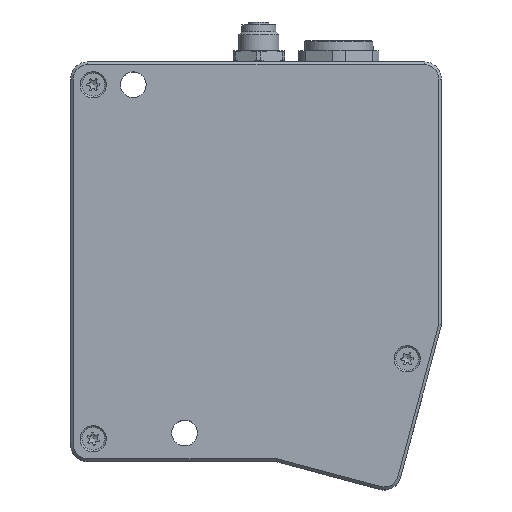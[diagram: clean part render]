
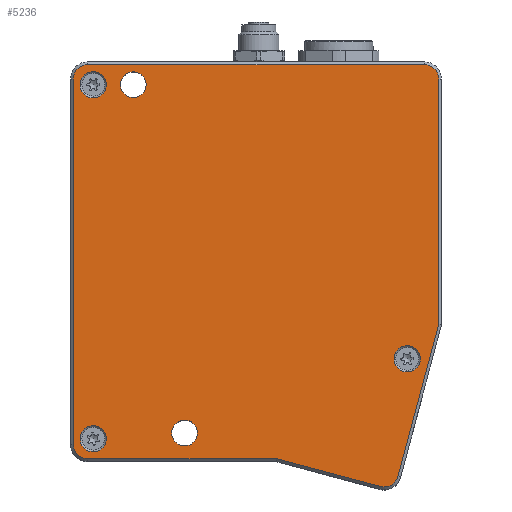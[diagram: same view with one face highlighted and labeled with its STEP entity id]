
A CAD part, top view. The second image highlights one B-rep face of the part: STEP entity #5236.
In plain terms, the highlighted planar face has unit normal (0, 0, 1).
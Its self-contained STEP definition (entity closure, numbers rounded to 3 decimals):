
#162=FACE_BOUND('',#853,.T.);
#163=FACE_BOUND('',#854,.T.);
#164=FACE_BOUND('',#855,.T.);
#165=FACE_BOUND('',#856,.T.);
#166=FACE_BOUND('',#857,.T.);
#244=PLANE('',#5633);
#531=FACE_OUTER_BOUND('',#852,.T.);
#852=EDGE_LOOP('',(#3741,#3742,#3743,#3744,#3745,#3746,#3747,#3748,#3749,
#3750));
#853=EDGE_LOOP('',(#3751,#3752));
#854=EDGE_LOOP('',(#3753,#3754));
#855=EDGE_LOOP('',(#3755,#3756));
#856=EDGE_LOOP('',(#3757,#3758));
#857=EDGE_LOOP('',(#3759,#3760));
#1194=LINE('',#8062,#1522);
#1198=LINE('',#8071,#1526);
#1203=LINE('',#8088,#1531);
#1207=LINE('',#8095,#1535);
#1211=LINE('',#8112,#1539);
#1213=LINE('',#8115,#1541);
#1522=VECTOR('',#6388,10.);
#1526=VECTOR('',#6394,10.);
#1531=VECTOR('',#6413,10.);
#1535=VECTOR('',#6419,10.);
#1539=VECTOR('',#6437,10.);
#1541=VECTOR('',#6441,10.);
#1860=CIRCLE('',#5611,2.5);
#1863=CIRCLE('',#5615,2.5);
#1865=CIRCLE('',#5620,2.5);
#1866=CIRCLE('',#5622,2.5);
#1870=CIRCLE('',#5634,2.25);
#1871=CIRCLE('',#5635,2.25);
#1872=CIRCLE('',#5636,2.25);
#1873=CIRCLE('',#5637,2.25);
#1874=CIRCLE('',#5638,2.3);
#1875=CIRCLE('',#5639,2.3);
#1876=CIRCLE('',#5640,2.3);
#1877=CIRCLE('',#5641,2.3);
#1878=CIRCLE('',#5642,2.3);
#1879=CIRCLE('',#5643,2.3);
#2216=VERTEX_POINT('',#8059);
#2217=VERTEX_POINT('',#8061);
#2220=VERTEX_POINT('',#8068);
#2221=VERTEX_POINT('',#8070);
#2224=VERTEX_POINT('',#8077);
#2225=VERTEX_POINT('',#8082);
#2227=VERTEX_POINT('',#8091);
#2229=VERTEX_POINT('',#8097);
#2232=VERTEX_POINT('',#8104);
#2234=VERTEX_POINT('',#8111);
#2241=VERTEX_POINT('',#8140);
#2242=VERTEX_POINT('',#8141);
#2243=VERTEX_POINT('',#8144);
#2244=VERTEX_POINT('',#8145);
#2245=VERTEX_POINT('',#8148);
#2246=VERTEX_POINT('',#8149);
#2247=VERTEX_POINT('',#8152);
#2248=VERTEX_POINT('',#8153);
#2249=VERTEX_POINT('',#8156);
#2250=VERTEX_POINT('',#8157);
#2792=EDGE_CURVE('',#2216,#2217,#1194,.T.);
#2796=EDGE_CURVE('',#2220,#2221,#1198,.T.);
#2800=EDGE_CURVE('',#2224,#2220,#1860,.T.);
#2804=EDGE_CURVE('',#2221,#2225,#1863,.T.);
#2805=EDGE_CURVE('',#2217,#2224,#1203,.T.);
#2809=EDGE_CURVE('',#2225,#2227,#1207,.T.);
#2812=EDGE_CURVE('',#2227,#2229,#1865,.T.);
#2814=EDGE_CURVE('',#2232,#2216,#1866,.T.);
#2817=EDGE_CURVE('',#2229,#2234,#1211,.T.);
#2819=EDGE_CURVE('',#2234,#2232,#1213,.T.);
#2832=EDGE_CURVE('',#2241,#2242,#1870,.T.);
#2833=EDGE_CURVE('',#2242,#2241,#1871,.T.);
#2834=EDGE_CURVE('',#2243,#2244,#1872,.T.);
#2835=EDGE_CURVE('',#2244,#2243,#1873,.T.);
#2836=EDGE_CURVE('',#2245,#2246,#1874,.T.);
#2837=EDGE_CURVE('',#2246,#2245,#1875,.T.);
#2838=EDGE_CURVE('',#2247,#2248,#1876,.T.);
#2839=EDGE_CURVE('',#2248,#2247,#1877,.T.);
#2840=EDGE_CURVE('',#2249,#2250,#1878,.T.);
#2841=EDGE_CURVE('',#2250,#2249,#1879,.T.);
#3741=ORIENTED_EDGE('',*,*,#2796,.F.);
#3742=ORIENTED_EDGE('',*,*,#2800,.F.);
#3743=ORIENTED_EDGE('',*,*,#2805,.F.);
#3744=ORIENTED_EDGE('',*,*,#2792,.F.);
#3745=ORIENTED_EDGE('',*,*,#2814,.F.);
#3746=ORIENTED_EDGE('',*,*,#2819,.F.);
#3747=ORIENTED_EDGE('',*,*,#2817,.F.);
#3748=ORIENTED_EDGE('',*,*,#2812,.F.);
#3749=ORIENTED_EDGE('',*,*,#2809,.F.);
#3750=ORIENTED_EDGE('',*,*,#2804,.F.);
#3751=ORIENTED_EDGE('',*,*,#2832,.T.);
#3752=ORIENTED_EDGE('',*,*,#2833,.T.);
#3753=ORIENTED_EDGE('',*,*,#2834,.T.);
#3754=ORIENTED_EDGE('',*,*,#2835,.T.);
#3755=ORIENTED_EDGE('',*,*,#2836,.T.);
#3756=ORIENTED_EDGE('',*,*,#2837,.T.);
#3757=ORIENTED_EDGE('',*,*,#2838,.T.);
#3758=ORIENTED_EDGE('',*,*,#2839,.T.);
#3759=ORIENTED_EDGE('',*,*,#2840,.T.);
#3760=ORIENTED_EDGE('',*,*,#2841,.T.);
#5236=ADVANCED_FACE('',(#531,#162,#163,#164,#165,#166),#244,.T.);
#5611=AXIS2_PLACEMENT_3D('',#8079,#6400,#6401);
#5615=AXIS2_PLACEMENT_3D('',#8086,#6409,#6410);
#5620=AXIS2_PLACEMENT_3D('',#8101,#6425,#6426);
#5622=AXIS2_PLACEMENT_3D('',#8106,#6430,#6431);
#5633=AXIS2_PLACEMENT_3D('',#8139,#6466,#6467);
#5634=AXIS2_PLACEMENT_3D('',#8142,#6468,#6469);
#5635=AXIS2_PLACEMENT_3D('',#8143,#6470,#6471);
#5636=AXIS2_PLACEMENT_3D('',#8146,#6472,#6473);
#5637=AXIS2_PLACEMENT_3D('',#8147,#6474,#6475);
#5638=AXIS2_PLACEMENT_3D('',#8150,#6476,#6477);
#5639=AXIS2_PLACEMENT_3D('',#8151,#6478,#6479);
#5640=AXIS2_PLACEMENT_3D('',#8154,#6480,#6481);
#5641=AXIS2_PLACEMENT_3D('',#8155,#6482,#6483);
#5642=AXIS2_PLACEMENT_3D('',#8158,#6484,#6485);
#5643=AXIS2_PLACEMENT_3D('',#8159,#6486,#6487);
#6388=DIRECTION('',(-0.966,0.259,0.));
#6394=DIRECTION('',(0.,1.,0.));
#6400=DIRECTION('center_axis',(0.,0.,-1.));
#6401=DIRECTION('ref_axis',(-0.707,-0.707,0.));
#6409=DIRECTION('center_axis',(0.,0.,-1.));
#6410=DIRECTION('ref_axis',(-0.707,0.707,0.));
#6413=DIRECTION('',(-1.,0.,0.));
#6419=DIRECTION('',(1.,0.,0.));
#6425=DIRECTION('center_axis',(0.,0.,-1.));
#6426=DIRECTION('ref_axis',(0.707,0.707,0.));
#6430=DIRECTION('center_axis',(0.,0.,-1.));
#6431=DIRECTION('ref_axis',(0.5,-0.866,0.));
#6437=DIRECTION('',(0.,-1.,0.));
#6441=DIRECTION('',(-0.259,-0.966,0.));
#6466=DIRECTION('center_axis',(0.,0.,1.));
#6467=DIRECTION('ref_axis',(1.,0.,0.));
#6468=DIRECTION('center_axis',(0.,0.,-1.));
#6469=DIRECTION('ref_axis',(1.,0.,0.));
#6470=DIRECTION('center_axis',(0.,0.,-1.));
#6471=DIRECTION('ref_axis',(1.,0.,0.));
#6472=DIRECTION('center_axis',(0.,0.,-1.));
#6473=DIRECTION('ref_axis',(1.,0.,0.));
#6474=DIRECTION('center_axis',(0.,0.,-1.));
#6475=DIRECTION('ref_axis',(1.,0.,0.));
#6476=DIRECTION('center_axis',(0.,0.,-1.));
#6477=DIRECTION('ref_axis',(1.,0.,0.));
#6478=DIRECTION('center_axis',(0.,0.,-1.));
#6479=DIRECTION('ref_axis',(1.,0.,0.));
#6480=DIRECTION('center_axis',(0.,0.,-1.));
#6481=DIRECTION('ref_axis',(1.,0.,0.));
#6482=DIRECTION('center_axis',(0.,0.,-1.));
#6483=DIRECTION('ref_axis',(1.,0.,0.));
#6484=DIRECTION('center_axis',(0.,0.,-1.));
#6485=DIRECTION('ref_axis',(1.,0.,0.));
#6486=DIRECTION('center_axis',(0.,0.,-1.));
#6487=DIRECTION('ref_axis',(1.,0.,0.));
#8059=CARTESIAN_POINT('',(46.289,135.617,20.));
#8061=CARTESIAN_POINT('',(28.066,140.5,20.));
#8062=CARTESIAN_POINT('',(32.465,139.321,20.));
#8068=CARTESIAN_POINT('',(-7.5,143.,20.));
#8070=CARTESIAN_POINT('',(-7.5,207.,20.));
#8071=CARTESIAN_POINT('',(-7.5,157.407,20.));
#8077=CARTESIAN_POINT('',(-5.,140.5,20.));
#8079=CARTESIAN_POINT('Origin',(-5.,143.,20.));
#8082=CARTESIAN_POINT('',(-5.,209.5,20.));
#8086=CARTESIAN_POINT('Origin',(-5.,207.,20.));
#8088=CARTESIAN_POINT('',(12.026,140.5,20.));
#8091=CARTESIAN_POINT('',(54.,209.5,20.));
#8095=CARTESIAN_POINT('',(8.026,209.5,20.));
#8097=CARTESIAN_POINT('',(56.5,207.,20.));
#8101=CARTESIAN_POINT('Origin',(54.,207.,20.));
#8104=CARTESIAN_POINT('',(49.351,137.385,20.));
#8106=CARTESIAN_POINT('Origin',(46.936,138.032,20.));
#8111=CARTESIAN_POINT('',(56.5,164.066,20.));
#8112=CARTESIAN_POINT('',(56.5,192.407,20.));
#8115=CARTESIAN_POINT('',(56.765,165.056,20.));
#8139=CARTESIAN_POINT('Origin',(24.052,174.815,20.));
#8140=CARTESIAN_POINT('',(14.25,145.,20.));
#8141=CARTESIAN_POINT('',(9.75,145.,20.));
#8142=CARTESIAN_POINT('Origin',(12.,145.,20.));
#8143=CARTESIAN_POINT('Origin',(12.,145.,20.));
#8144=CARTESIAN_POINT('',(5.25,206.,20.));
#8145=CARTESIAN_POINT('',(0.75,206.,20.));
#8146=CARTESIAN_POINT('Origin',(3.,206.,20.));
#8147=CARTESIAN_POINT('Origin',(3.,206.,20.));
#8148=CARTESIAN_POINT('',(-1.7,144.,20.));
#8149=CARTESIAN_POINT('',(-6.3,144.,20.));
#8150=CARTESIAN_POINT('Origin',(-4.,144.,20.));
#8151=CARTESIAN_POINT('Origin',(-4.,144.,20.));
#8152=CARTESIAN_POINT('',(-1.7,206.,20.));
#8153=CARTESIAN_POINT('',(-6.3,206.,20.));
#8154=CARTESIAN_POINT('Origin',(-4.,206.,20.));
#8155=CARTESIAN_POINT('Origin',(-4.,206.,20.));
#8156=CARTESIAN_POINT('',(53.3,158.,20.));
#8157=CARTESIAN_POINT('',(48.7,158.,20.));
#8158=CARTESIAN_POINT('Origin',(51.,158.,20.));
#8159=CARTESIAN_POINT('Origin',(51.,158.,20.));
